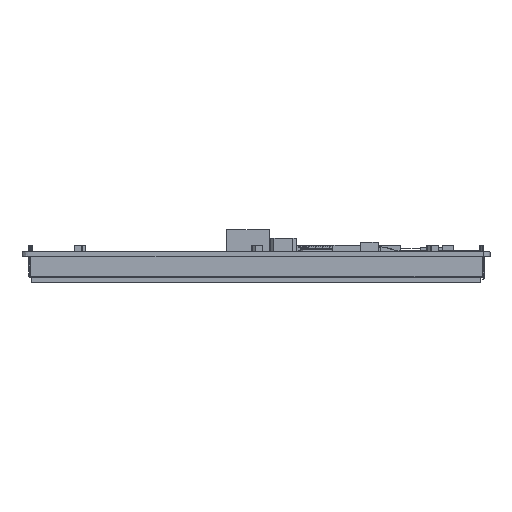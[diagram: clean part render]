
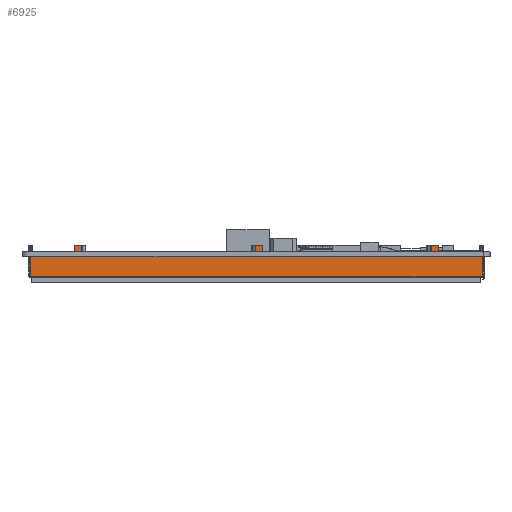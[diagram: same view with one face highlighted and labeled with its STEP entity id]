
A CAD part, left-side view. The second image highlights one B-rep face of the part: STEP entity #6925.
In plain terms, the highlighted planar face has unit normal (-1, 0, 0).
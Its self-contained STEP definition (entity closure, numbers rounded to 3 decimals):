
#4495=PLANE('',#55670);
#6925=ADVANCED_FACE('',(#9927),#4495,.T.);
#9927=FACE_OUTER_BOUND('',#12479,.T.);
#12479=EDGE_LOOP('',(#25742,#25743,#25744,#25745,#25746,#25747,#25748,#25749,
#25750,#25751,#25752,#25753,#25754,#25755,#25756,#25757,#25758,#25759,#25760,
#25761,#25762,#25763));
#25742=ORIENTED_EDGE('',*,*,#39208,.F.);
#25743=ORIENTED_EDGE('',*,*,#39209,.T.);
#25744=ORIENTED_EDGE('',*,*,#39210,.T.);
#25745=ORIENTED_EDGE('',*,*,#39211,.F.);
#25746=ORIENTED_EDGE('',*,*,#39212,.F.);
#25747=ORIENTED_EDGE('',*,*,#39213,.F.);
#25748=ORIENTED_EDGE('',*,*,#39214,.T.);
#25749=ORIENTED_EDGE('',*,*,#39215,.T.);
#25750=ORIENTED_EDGE('',*,*,#39216,.T.);
#25751=ORIENTED_EDGE('',*,*,#39205,.F.);
#25752=ORIENTED_EDGE('',*,*,#39217,.F.);
#25753=ORIENTED_EDGE('',*,*,#39218,.F.);
#25754=ORIENTED_EDGE('',*,*,#39219,.T.);
#25755=ORIENTED_EDGE('',*,*,#39220,.T.);
#25756=ORIENTED_EDGE('',*,*,#39221,.T.);
#25757=ORIENTED_EDGE('',*,*,#39201,.F.);
#25758=ORIENTED_EDGE('',*,*,#39222,.F.);
#25759=ORIENTED_EDGE('',*,*,#39223,.T.);
#25760=ORIENTED_EDGE('',*,*,#39224,.F.);
#25761=ORIENTED_EDGE('',*,*,#39225,.F.);
#25762=ORIENTED_EDGE('',*,*,#39226,.T.);
#25763=ORIENTED_EDGE('',*,*,#39199,.F.);
#32392=VERTEX_POINT('',#81630);
#32394=VERTEX_POINT('',#81634);
#32395=VERTEX_POINT('',#81638);
#32397=VERTEX_POINT('',#81641);
#32399=VERTEX_POINT('',#81647);
#32401=VERTEX_POINT('',#81650);
#32403=VERTEX_POINT('',#81656);
#32404=VERTEX_POINT('',#81658);
#32405=VERTEX_POINT('',#81660);
#32406=VERTEX_POINT('',#81662);
#32407=VERTEX_POINT('',#81664);
#32408=VERTEX_POINT('',#81666);
#32409=VERTEX_POINT('',#81668);
#32410=VERTEX_POINT('',#81670);
#32411=VERTEX_POINT('',#81673);
#32412=VERTEX_POINT('',#81675);
#32413=VERTEX_POINT('',#81677);
#32414=VERTEX_POINT('',#81679);
#32415=VERTEX_POINT('',#81682);
#32416=VERTEX_POINT('',#81684);
#32417=VERTEX_POINT('',#81686);
#32418=VERTEX_POINT('',#81688);
#39199=EDGE_CURVE('',#32394,#32392,#45679,.T.);
#39201=EDGE_CURVE('',#32395,#32397,#45681,.T.);
#39205=EDGE_CURVE('',#32399,#32401,#45685,.T.);
#39208=EDGE_CURVE('',#32403,#32394,#45688,.T.);
#39209=EDGE_CURVE('',#32403,#32404,#45689,.T.);
#39210=EDGE_CURVE('',#32404,#32405,#45690,.T.);
#39211=EDGE_CURVE('',#32406,#32405,#45691,.T.);
#39212=EDGE_CURVE('',#32407,#32406,#45692,.T.);
#39213=EDGE_CURVE('',#32408,#32407,#45693,.T.);
#39214=EDGE_CURVE('',#32408,#32409,#45694,.T.);
#39215=EDGE_CURVE('',#32409,#32410,#45695,.T.);
#39216=EDGE_CURVE('',#32410,#32401,#45696,.T.);
#39217=EDGE_CURVE('',#32411,#32399,#45697,.T.);
#39218=EDGE_CURVE('',#32412,#32411,#45698,.T.);
#39219=EDGE_CURVE('',#32412,#32413,#45699,.T.);
#39220=EDGE_CURVE('',#32413,#32414,#45700,.T.);
#39221=EDGE_CURVE('',#32414,#32397,#45701,.T.);
#39222=EDGE_CURVE('',#32415,#32395,#45702,.T.);
#39223=EDGE_CURVE('',#32415,#32416,#45703,.T.);
#39224=EDGE_CURVE('',#32417,#32416,#45704,.T.);
#39225=EDGE_CURVE('',#32418,#32417,#45705,.T.);
#39226=EDGE_CURVE('',#32418,#32392,#45706,.T.);
#45679=LINE('',#81635,#51835);
#45681=LINE('',#81640,#51837);
#45685=LINE('',#81649,#51841);
#45688=LINE('',#81655,#51844);
#45689=LINE('',#81657,#51845);
#45690=LINE('',#81659,#51846);
#45691=LINE('',#81661,#51847);
#45692=LINE('',#81663,#51848);
#45693=LINE('',#81665,#51849);
#45694=LINE('',#81667,#51850);
#45695=LINE('',#81669,#51851);
#45696=LINE('',#81671,#51852);
#45697=LINE('',#81672,#51853);
#45698=LINE('',#81674,#51854);
#45699=LINE('',#81676,#51855);
#45700=LINE('',#81678,#51856);
#45701=LINE('',#81680,#51857);
#45702=LINE('',#81681,#51858);
#45703=LINE('',#81683,#51859);
#45704=LINE('',#81685,#51860);
#45705=LINE('',#81687,#51861);
#45706=LINE('',#81689,#51862);
#51835=VECTOR('',#66963,1.);
#51837=VECTOR('',#66967,1.);
#51841=VECTOR('',#66973,1.);
#51844=VECTOR('',#66978,1.);
#51845=VECTOR('',#66979,1.);
#51846=VECTOR('',#66980,1.);
#51847=VECTOR('',#66981,1.);
#51848=VECTOR('',#66982,1.);
#51849=VECTOR('',#66983,1.);
#51850=VECTOR('',#66984,1.);
#51851=VECTOR('',#66985,1.);
#51852=VECTOR('',#66986,1.);
#51853=VECTOR('',#66987,1.);
#51854=VECTOR('',#66988,1.);
#51855=VECTOR('',#66989,1.);
#51856=VECTOR('',#66990,1.);
#51857=VECTOR('',#66991,1.);
#51858=VECTOR('',#66992,1.);
#51859=VECTOR('',#66993,1.);
#51860=VECTOR('',#66994,1.);
#51861=VECTOR('',#66995,1.);
#51862=VECTOR('',#66996,1.);
#55670=AXIS2_PLACEMENT_3D('',#81690,#66997,#66998);
#66963=DIRECTION('',(0.,-1.,0.));
#66967=DIRECTION('',(0.,-1.,0.));
#66973=DIRECTION('',(0.,-1.,0.));
#66978=DIRECTION('',(0.,0.,1.));
#66979=DIRECTION('',(0.,-1.,0.));
#66980=DIRECTION('',(0.,0.,1.));
#66981=DIRECTION('',(0.,-1.,0.));
#66982=DIRECTION('',(0.,0.,-1.));
#66983=DIRECTION('',(0.,-1.,0.));
#66984=DIRECTION('',(0.,0.,-1.));
#66985=DIRECTION('',(0.,-1.,0.));
#66986=DIRECTION('',(0.,0.,-1.));
#66987=DIRECTION('',(0.,0.,-1.));
#66988=DIRECTION('',(0.,-1.,0.));
#66989=DIRECTION('',(0.,0.,-1.));
#66990=DIRECTION('',(0.,-1.,0.));
#66991=DIRECTION('',(0.,0.,-1.));
#66992=DIRECTION('',(0.,0.,-1.));
#66993=DIRECTION('',(0.,-1.,0.));
#66994=DIRECTION('',(0.,0.,-1.));
#66995=DIRECTION('',(0.,-1.,0.));
#66996=DIRECTION('',(0.,0.,-1.));
#66997=DIRECTION('',(-1.,0.,0.));
#66998=DIRECTION('',(0.,1.,0.));
#81630=CARTESIAN_POINT('',(1013.555,86.184,-1.6));
#81634=CARTESIAN_POINT('',(1013.555,100.243,-1.6));
#81635=CARTESIAN_POINT('',(1013.555,100.243,-1.6));
#81638=CARTESIAN_POINT('',(1013.555,84.184,-1.6));
#81640=CARTESIAN_POINT('',(1013.555,100.243,-1.6));
#81641=CARTESIAN_POINT('',(1013.555,28.708,-1.6));
#81647=CARTESIAN_POINT('',(1013.555,26.708,-1.6));
#81649=CARTESIAN_POINT('',(1013.555,100.243,-1.6));
#81650=CARTESIAN_POINT('',(1013.555,-26.802,-1.6));
#81655=CARTESIAN_POINT('',(1013.555,100.243,-8.1));
#81656=CARTESIAN_POINT('',(1013.555,100.243,-7.7));
#81657=CARTESIAN_POINT('',(1013.555,-42.757,-7.7));
#81658=CARTESIAN_POINT('',(1013.555,-42.757,-7.7));
#81659=CARTESIAN_POINT('',(1013.555,-42.757,-8.1));
#81660=CARTESIAN_POINT('',(1013.555,-42.757,-1.6));
#81661=CARTESIAN_POINT('',(1013.555,100.243,-1.6));
#81662=CARTESIAN_POINT('',(1013.555,-28.802,-1.6));
#81663=CARTESIAN_POINT('',(1013.555,-28.802,2.));
#81664=CARTESIAN_POINT('',(1013.555,-28.802,2.));
#81665=CARTESIAN_POINT('',(1013.555,-26.575,2.));
#81666=CARTESIAN_POINT('',(1013.555,-26.575,2.));
#81667=CARTESIAN_POINT('',(1013.555,-26.575,2.));
#81668=CARTESIAN_POINT('',(1013.555,-26.575,0.));
#81669=CARTESIAN_POINT('',(1013.555,-26.575,0.));
#81670=CARTESIAN_POINT('',(1013.555,-26.802,0.));
#81671=CARTESIAN_POINT('',(1013.555,-26.802,0.));
#81672=CARTESIAN_POINT('',(1013.555,26.708,0.));
#81673=CARTESIAN_POINT('',(1013.555,26.708,2.));
#81674=CARTESIAN_POINT('',(1013.555,28.935,2.));
#81675=CARTESIAN_POINT('',(1013.555,28.935,2.));
#81676=CARTESIAN_POINT('',(1013.555,28.935,2.));
#81677=CARTESIAN_POINT('',(1013.555,28.935,0.));
#81678=CARTESIAN_POINT('',(1013.555,28.935,0.));
#81679=CARTESIAN_POINT('',(1013.555,28.708,0.));
#81680=CARTESIAN_POINT('',(1013.555,28.708,0.));
#81681=CARTESIAN_POINT('',(1013.555,84.184,0.));
#81682=CARTESIAN_POINT('',(1013.555,84.184,0.));
#81683=CARTESIAN_POINT('',(1013.555,86.184,0.));
#81684=CARTESIAN_POINT('',(1013.555,83.957,0.));
#81685=CARTESIAN_POINT('',(1013.555,83.957,2.));
#81686=CARTESIAN_POINT('',(1013.555,83.957,2.));
#81687=CARTESIAN_POINT('',(1013.555,86.184,2.));
#81688=CARTESIAN_POINT('',(1013.555,86.184,2.));
#81689=CARTESIAN_POINT('',(1013.555,86.184,0.));
#81690=CARTESIAN_POINT('',(1013.555,100.243,-8.1));
